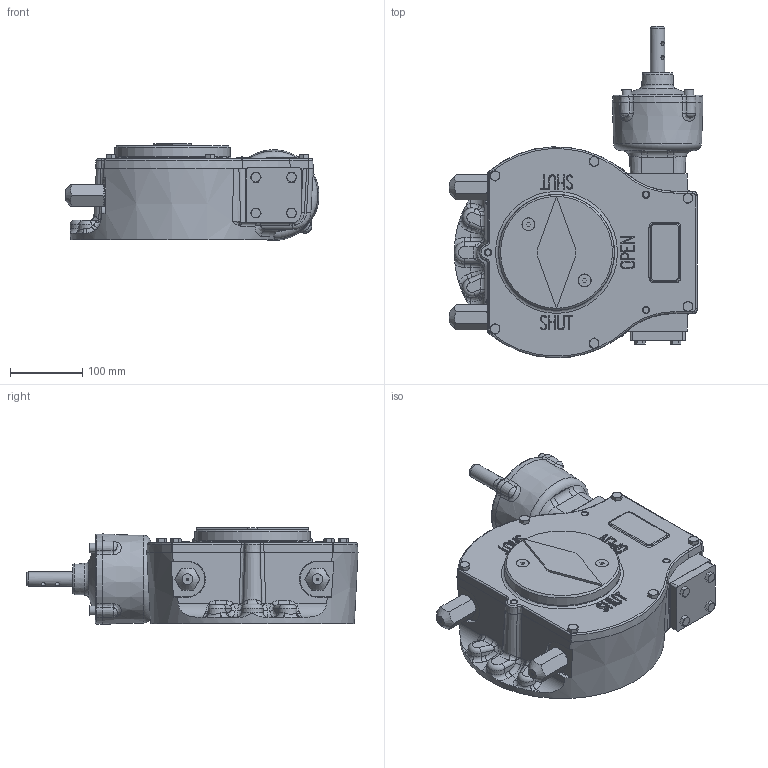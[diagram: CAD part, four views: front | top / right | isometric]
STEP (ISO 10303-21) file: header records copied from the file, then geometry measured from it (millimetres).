
FILE_DESCRIPTION( ( 'Unknown' ), '1' );
FILE_NAME( 'M:/Current Drawings/Internet datasheets/4 - STEP/AB3000G-PR6 LH.stp', 'Unknown', ( 'Unknown' ), ( 'Unknown' ), 'PSStep 15.0.49', 'Unknown', ' ' );
FILE_SCHEMA( ( 'AUTOMOTIVE_DESIGN { 1 0 10303 214 1 1 1 1 }' ) );
Length unit declared in the file: millimetre
Products named in the file (1): AB3000A20
Bounding box: 351.44 x 459.66 x 134.19 mm (x, y, z)
Volume: 6147839.9 mm3; surface area: 740322.8 mm2
Topology: 1 solids, 50 shells, 2387 faces, 6082 edges, 3756 vertices
Faces by surface type: plane 673, cylinder 630, cone 442, bspline 298, torus 230, sphere 84, extrusion 30
Full cylindrical faces by diameter (mm): 6 x2, 6.647 x40, 8 x20, 8.5 x10, 9 x10, 10 x6, 13.27 x4, 14 x4, 17.294 x2, 19 x1, 20 x7, 23 x1, 25 x3, 26 x3, 28 x2, 29 x1, 35 x2, 102 x1, 104.555 x1, 110 x3, 110.25 x1, 125.95 x2, 130 x6, 135 x1, 146 x1, 151.6 x1, 160 x1
Entity records: 133362 total; most frequent: CARTESIAN_POINT 61528, ORIENTED_EDGE 11110, DIRECTION 10542, EDGE_CURVE 5555, AXIS2_PLACEMENT_3D 4409, VERTEX_POINT 3627, EDGE_LOOP 2762, FACE_OUTER_BOUND 2571
